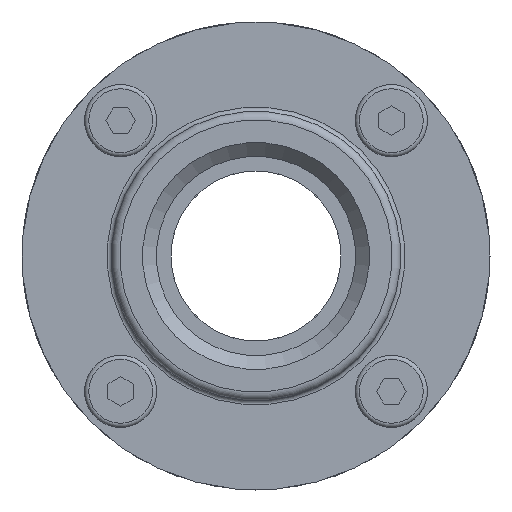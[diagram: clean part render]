
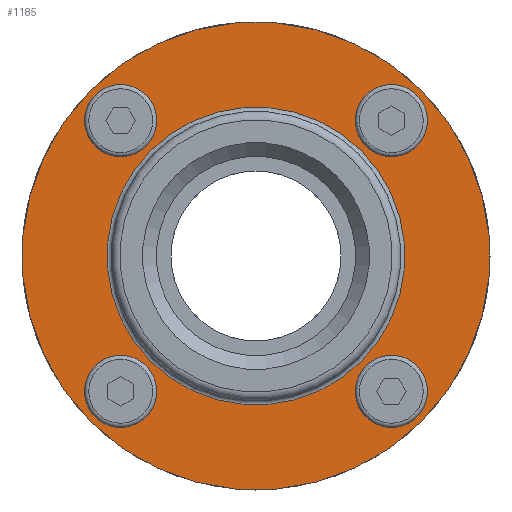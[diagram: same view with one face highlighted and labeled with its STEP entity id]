
A CAD part, front view. The second image highlights one B-rep face of the part: STEP entity #1185.
In plain terms, the highlighted planar face has unit normal (0, -1, 0).
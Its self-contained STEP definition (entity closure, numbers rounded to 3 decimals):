
#777=FACE_BOUND('',#1751,.T.);
#778=FACE_BOUND('',#1752,.T.);
#779=FACE_BOUND('',#1753,.T.);
#780=FACE_BOUND('',#1754,.T.);
#781=FACE_BOUND('',#1755,.T.);
#782=FACE_BOUND('',#1756,.T.);
#1185=ADVANCED_FACE('',(#777,#778,#779,#780,#781,#782),#1446,.F.);
#1446=PLANE('',#4068);
#1751=EDGE_LOOP('',(#2321));
#1752=EDGE_LOOP('',(#2322));
#1753=EDGE_LOOP('',(#2323));
#1754=EDGE_LOOP('',(#2324));
#1755=EDGE_LOOP('',(#2325));
#1756=EDGE_LOOP('',(#2326));
#2321=ORIENTED_EDGE('',*,*,#3339,.F.);
#2322=ORIENTED_EDGE('',*,*,#3340,.F.);
#2323=ORIENTED_EDGE('',*,*,#3341,.F.);
#2324=ORIENTED_EDGE('',*,*,#3342,.F.);
#2325=ORIENTED_EDGE('',*,*,#3343,.T.);
#2326=ORIENTED_EDGE('',*,*,#3318,.T.);
#2970=VERTEX_POINT('',#5840);
#2991=VERTEX_POINT('',#5900);
#2992=VERTEX_POINT('',#5902);
#2993=VERTEX_POINT('',#5904);
#2994=VERTEX_POINT('',#5906);
#2995=VERTEX_POINT('',#5908);
#3318=EDGE_CURVE('',#2970,#2970,#3751,.T.);
#3339=EDGE_CURVE('',#2991,#2991,#3772,.T.);
#3340=EDGE_CURVE('',#2992,#2992,#3773,.T.);
#3341=EDGE_CURVE('',#2993,#2993,#3774,.T.);
#3342=EDGE_CURVE('',#2994,#2994,#3775,.T.);
#3343=EDGE_CURVE('',#2995,#2995,#3776,.T.);
#3751=CIRCLE('',#4024,27.5);
#3772=CIRCLE('',#4063,2.6);
#3773=CIRCLE('',#4064,2.6);
#3774=CIRCLE('',#4065,2.6);
#3775=CIRCLE('',#4066,2.6);
#3776=CIRCLE('',#4067,17.5);
#4024=AXIS2_PLACEMENT_3D('',#5839,#4665,#4666);
#4063=AXIS2_PLACEMENT_3D('',#5899,#4743,#4744);
#4064=AXIS2_PLACEMENT_3D('',#5901,#4745,#4746);
#4065=AXIS2_PLACEMENT_3D('',#5903,#4747,#4748);
#4066=AXIS2_PLACEMENT_3D('',#5905,#4749,#4750);
#4067=AXIS2_PLACEMENT_3D('',#5907,#4751,#4752);
#4068=AXIS2_PLACEMENT_3D('',#5909,#4753,#4754);
#4665=DIRECTION('',(0.,-1.,0.));
#4666=DIRECTION('',(-0.707,0.,0.707));
#4743=DIRECTION('',(0.,-1.,0.));
#4744=DIRECTION('',(-0.707,0.,0.707));
#4745=DIRECTION('',(0.,-1.,0.));
#4746=DIRECTION('',(-0.707,0.,0.707));
#4747=DIRECTION('',(0.,-1.,0.));
#4748=DIRECTION('',(-0.707,0.,0.707));
#4749=DIRECTION('',(0.,-1.,0.));
#4750=DIRECTION('',(-0.707,0.,0.707));
#4751=DIRECTION('',(0.,1.,0.));
#4752=DIRECTION('',(-0.707,0.,0.707));
#4753=DIRECTION('',(0.,1.,0.));
#4754=DIRECTION('',(-0.707,0.,0.707));
#5839=CARTESIAN_POINT('',(0.,-38.5,0.));
#5840=CARTESIAN_POINT('',(-19.445,-38.5,19.445));
#5899=CARTESIAN_POINT('',(-15.91,-38.5,-15.91));
#5900=CARTESIAN_POINT('',(-17.748,-38.5,-14.071));
#5901=CARTESIAN_POINT('',(15.91,-38.5,-15.91));
#5902=CARTESIAN_POINT('',(14.071,-38.5,-14.071));
#5903=CARTESIAN_POINT('',(15.91,-38.5,15.91));
#5904=CARTESIAN_POINT('',(14.071,-38.5,17.748));
#5905=CARTESIAN_POINT('',(-15.91,-38.5,15.91));
#5906=CARTESIAN_POINT('',(-17.748,-38.5,17.748));
#5907=CARTESIAN_POINT('',(0.,-38.5,0.));
#5908=CARTESIAN_POINT('',(-12.374,-38.5,12.374));
#5909=CARTESIAN_POINT('',(0.,-38.5,0.));
